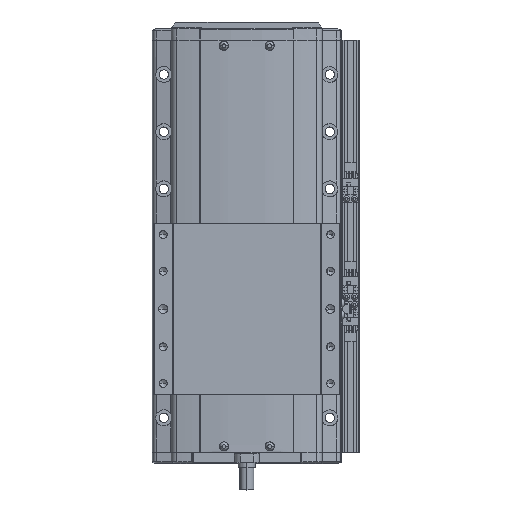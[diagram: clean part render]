
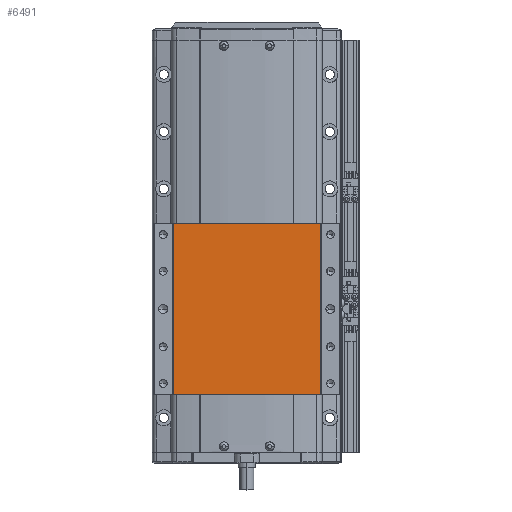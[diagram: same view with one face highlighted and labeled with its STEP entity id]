
A CAD part, top view. The second image highlights one B-rep face of the part: STEP entity #6491.
In plain terms, the highlighted planar face has unit normal (0, 0, 1).
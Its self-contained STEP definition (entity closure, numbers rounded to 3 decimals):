
#6491=ADVANCED_FACE('',(#13366),#13367,.F.);
#13366=FACE_OUTER_BOUND('',#22540,.T.);
#13367=PLANE('',#22541);
#22540=EDGE_LOOP('',(#41930,#41931,#41932,#41933));
#22541=AXIS2_PLACEMENT_3D('',#41934,#41935,#41936);
#41930=ORIENTED_EDGE('',*,*,#52693,.F.);
#41931=ORIENTED_EDGE('',*,*,#47127,.F.);
#41932=ORIENTED_EDGE('',*,*,#46625,.F.);
#41933=ORIENTED_EDGE('',*,*,#46022,.T.);
#41934=CARTESIAN_POINT('',(-600.,322.222,51.5));
#41935=DIRECTION('',(0.,0.,-1.0));
#41936=DIRECTION('',(-1.0,0.,0.));
#46022=EDGE_CURVE('',#54955,#54952,#54956,.T.);
#46625=EDGE_CURVE('',#54955,#56031,#56032,.T.);
#47127=EDGE_CURVE('',#56031,#56901,#56904,.T.);
#52693=EDGE_CURVE('',#56901,#54952,#64964,.T.);
#54952=VERTEX_POINT('',#67832);
#54955=VERTEX_POINT('',#67835);
#54956=LINE('',#67836,#67837);
#56031=VERTEX_POINT('',#69317);
#56032=LINE('',#69318,#69319);
#56901=VERTEX_POINT('',#70478);
#56904=LINE('',#70482,#70483);
#64964=LINE('',#82633,#82634);
#67832=CARTESIAN_POINT('',(-535.624,472.222,51.5));
#67835=CARTESIAN_POINT('',(-535.624,322.222,51.5));
#67836=CARTESIAN_POINT('',(-535.624,322.222,51.5));
#67837=VECTOR('',#84985,10.0);
#69317=CARTESIAN_POINT('',(-664.376,322.222,51.5));
#69318=CARTESIAN_POINT('',(-535.624,322.222,51.5));
#69319=VECTOR('',#85803,10.0);
#70478=CARTESIAN_POINT('',(-664.376,472.222,51.5));
#70482=CARTESIAN_POINT('',(-664.376,322.222,51.5));
#70483=VECTOR('',#86544,10.0);
#82633=CARTESIAN_POINT('',(-535.624,472.222,51.5));
#82634=VECTOR('',#92789,10.0);
#84985=DIRECTION('',(0.,1.0,0.));
#85803=DIRECTION('',(-1.0,0.,0.));
#86544=DIRECTION('',(0.,1.0,0.));
#92789=DIRECTION('',(1.0,0.,0.));
